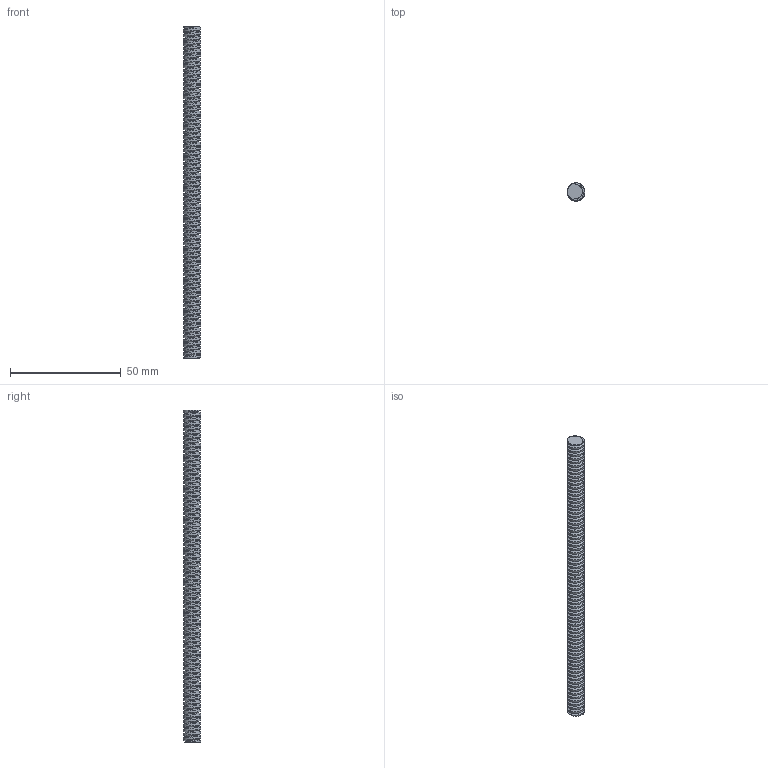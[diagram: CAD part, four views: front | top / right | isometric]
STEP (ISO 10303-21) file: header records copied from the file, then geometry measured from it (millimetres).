
FILE_DESCRIPTION(/* description */ ('STEP AP242 Edition 2','CAx-IF Rec.Pracs.---Representation and Presentation of Product Manufacturing Information (PMI)---4.0---2014-10-13','CAx-IF Rec.Pracs.---3D Tessellated Geometry---0.4---2014-09-14','2;1','CAx-IF Rec.Pracs.---User Defined Attributes---1.5---2016-08-15'),/* implementation_level */ '2;1');
FILE_NAME(/* name */ 'Lead Screw 150mm Long',/* time_stamp */ '2025-11-29T19:49:45Z',/* author */ (''),/* organization */ (''),/* preprocessor_version */ 'ST-DEVELOPER v20',/* originating_system */ 'ONSHAPE BY PTC INC, 1.207',/* authorisation */ ' ');
FILE_SCHEMA (('AP242_MANAGED_MODEL_BASED_3D_ENGINEERING_MIM_LF { 1 0 10303 442 3 1 4 }'));
Length unit declared in the file: metre
Products named in the file (1): LeadScrew 8mm x 2mmPitch
Bounding box: 8 x 8 x 150 mm (x, y, z)
Volume: 5926 mm3; surface area: 5298.9 mm2
Topology: 1 solids, 1 shells, 8 faces, 318 edges, 312 vertices
Faces by surface type: plane 3, bspline 2, cylinder 2, torus 1
Entity records: 10488 total; most frequent: CARTESIAN_POINT 9107, ORIENTED_EDGE 636, EDGE_CURVE 318, VERTEX_POINT 312, DIRECTION 29, AXIS2_PLACEMENT_3D 13, EDGE_LOOP 8, FACE_BOUND 8
